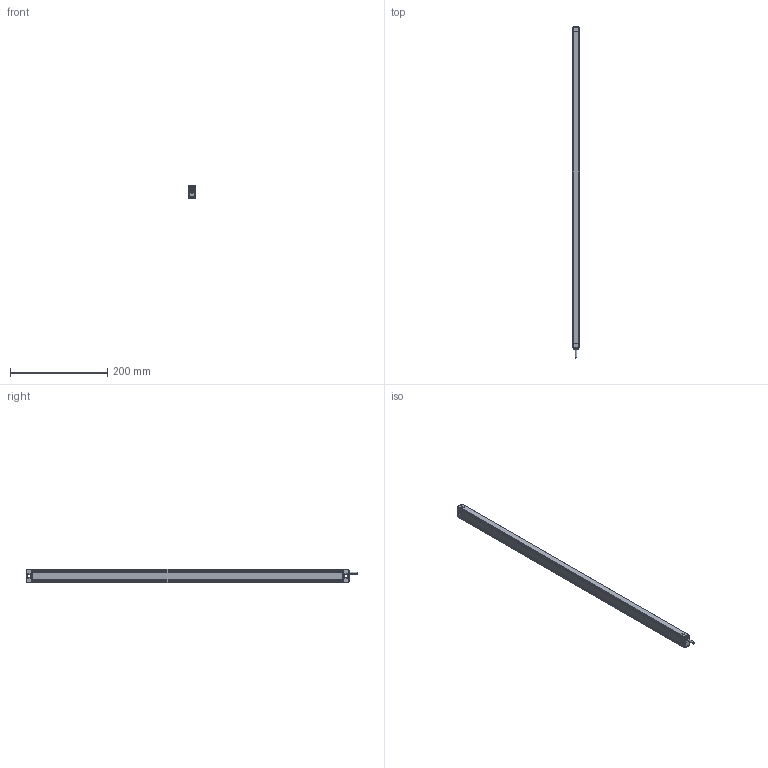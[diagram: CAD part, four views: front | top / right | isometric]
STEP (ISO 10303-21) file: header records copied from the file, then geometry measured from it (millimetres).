
FILE_DESCRIPTION((''),'2;1');
FILE_NAME('EB13-0320_ASM','2021-07-12T16:36:39',('18720616900'),(''),'CREO PARAMETRIC BY PTC INC, 2019010','CREO PARAMETRIC BY PTC INC, 2019010','');
FILE_SCHEMA(('CONFIG_CONTROL_DESIGN'));
Products named in the file (7): EB1300; 000; 0002; 0004; EB13-0320_ASM
Assembly tree (9 placements, depth 2):
  EB13-0320_ASM
    EB1300
    000
    0002
    000
    0004  x4
    000
Bounding box: 13 x 682.4 x 28 mm (x, y, z)
Volume: 248969.1 mm3; surface area: 87065 mm2
Topology: 9 solids, 27 shells, 1032 faces, 3520 edges, 2523 vertices
Faces by surface type: cylinder 544, plane 295, bspline 118, torus 40, sphere 31, cone 4
Entity records: 52594 total; most frequent: CARTESIAN_POINT 37957, ORIENTED_EDGE 3370, DIRECTION 2501, EDGE_CURVE 1685, VERTEX_POINT 1150, AXIS2_PLACEMENT_3D 849, VECTOR 803, LINE 803
